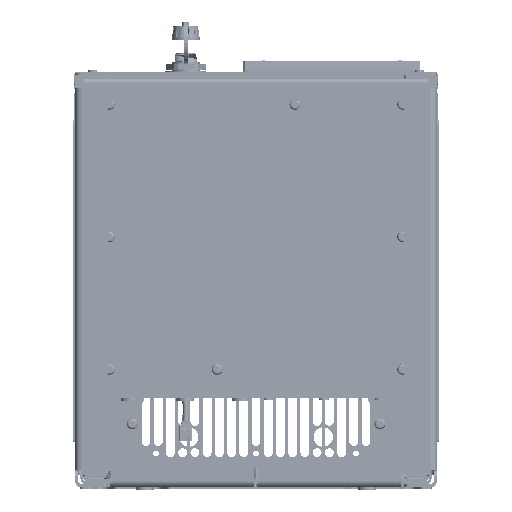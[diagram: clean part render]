
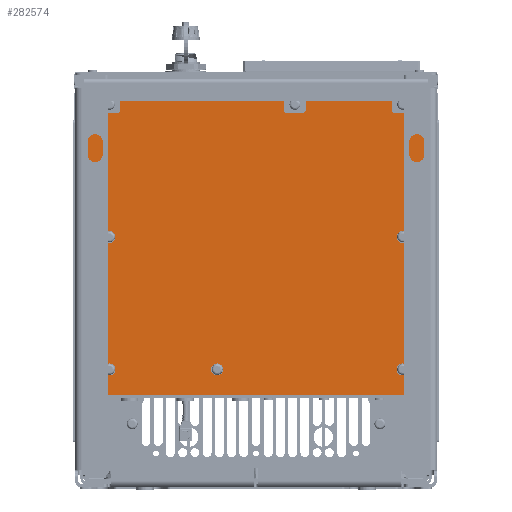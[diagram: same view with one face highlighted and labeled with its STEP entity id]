
A CAD part, front view. The second image highlights one B-rep face of the part: STEP entity #282574.
In plain terms, the highlighted planar face has unit normal (0, -1, 0) as drawn and (0, 0, 1) by its records, which use the part's own axes.
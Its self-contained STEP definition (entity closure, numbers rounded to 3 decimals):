
#281967=CARTESIAN_POINT('',(0.,132.,1.9));
#281968=DIRECTION('',(0.,0.,1.));
#281969=DIRECTION('',(0.,-1.,0.));
#281970=AXIS2_PLACEMENT_3D('',#281967,#281968,#281969);
#281975=CARTESIAN_POINT('',(0.,132.,1.9));
#281976=DIRECTION('',(0.,0.,1.));
#281977=DIRECTION('',(0.,1.,0.));
#281978=AXIS2_PLACEMENT_3D('',#281975,#281976,#281977);
#281983=CARTESIAN_POINT('',(119.3,132.,1.9));
#281984=DIRECTION('',(0.,0.,1.));
#281985=DIRECTION('',(0.,-1.,0.));
#281986=AXIS2_PLACEMENT_3D('',#281983,#281984,#281985);
#281991=CARTESIAN_POINT('',(119.3,132.,1.9));
#281992=DIRECTION('',(0.,0.,1.));
#281993=DIRECTION('',(0.,1.,0.));
#281994=AXIS2_PLACEMENT_3D('',#281991,#281992,#281993);
#281999=CARTESIAN_POINT('',(-119.3,132.,1.9));
#282000=DIRECTION('',(0.,0.,1.));
#282001=DIRECTION('',(0.,-1.,0.));
#282002=AXIS2_PLACEMENT_3D('',#281999,#282000,#282001);
#282007=CARTESIAN_POINT('',(-119.3,132.,1.9));
#282008=DIRECTION('',(0.,0.,1.));
#282009=DIRECTION('',(0.,1.,0.));
#282010=AXIS2_PLACEMENT_3D('',#282007,#282008,#282009);
#282015=CARTESIAN_POINT('',(0.,-132.,1.9));
#282016=DIRECTION('',(0.,0.,1.));
#282017=DIRECTION('',(0.,-1.,0.));
#282018=AXIS2_PLACEMENT_3D('',#282015,#282016,#282017);
#282023=CARTESIAN_POINT('',(0.,-132.,1.9));
#282024=DIRECTION('',(0.,0.,1.));
#282025=DIRECTION('',(0.,1.,0.));
#282026=AXIS2_PLACEMENT_3D('',#282023,#282024,#282025);
#282031=CARTESIAN_POINT('',(119.3,-35.,1.9));
#282032=DIRECTION('',(0.,0.,1.));
#282033=DIRECTION('',(0.,-1.,0.));
#282034=AXIS2_PLACEMENT_3D('',#282031,#282032,#282033);
#282039=CARTESIAN_POINT('',(119.3,-35.,1.9));
#282040=DIRECTION('',(0.,0.,1.));
#282041=DIRECTION('',(0.,1.,0.));
#282042=AXIS2_PLACEMENT_3D('',#282039,#282040,#282041);
#282047=CARTESIAN_POINT('',(119.3,-132.,1.9));
#282048=DIRECTION('',(0.,0.,1.));
#282049=DIRECTION('',(0.,-1.,0.));
#282050=AXIS2_PLACEMENT_3D('',#282047,#282048,#282049);
#282055=CARTESIAN_POINT('',(119.3,-132.,1.9));
#282056=DIRECTION('',(0.,0.,1.));
#282057=DIRECTION('',(0.,1.,0.));
#282058=AXIS2_PLACEMENT_3D('',#282055,#282056,#282057);
#282063=CARTESIAN_POINT('',(-119.3,35.,1.9));
#282064=DIRECTION('',(0.,0.,1.));
#282065=DIRECTION('',(0.,-1.,0.));
#282066=AXIS2_PLACEMENT_3D('',#282063,#282064,#282065);
#282071=CARTESIAN_POINT('',(-119.3,35.,1.9));
#282072=DIRECTION('',(0.,0.,1.));
#282073=DIRECTION('',(0.,1.,0.));
#282074=AXIS2_PLACEMENT_3D('',#282071,#282072,#282073);
#282079=CARTESIAN_POINT('',(-119.3,-132.,1.9));
#282080=DIRECTION('',(0.,0.,1.));
#282081=DIRECTION('',(0.,-1.,0.));
#282082=AXIS2_PLACEMENT_3D('',#282079,#282080,#282081);
#282087=CARTESIAN_POINT('',(-119.3,-132.,1.9));
#282088=DIRECTION('',(0.,0.,1.));
#282089=DIRECTION('',(0.,1.,0.));
#282090=AXIS2_PLACEMENT_3D('',#282087,#282088,#282089);
#282095=CARTESIAN_POINT('',(-137.,-146.,1.9));
#282096=DIRECTION('',(0.,0.,1.));
#282097=DIRECTION('',(-1.,0.,0.));
#282098=AXIS2_PLACEMENT_3D('',#282095,#282096,#282097);
#282103=DIRECTION('',(0.,-1.,0.));
#282104=VECTOR('',#282103,292.);
#282105=CARTESIAN_POINT('',(-142.,146.,1.9));
#282106=LINE('',#282105,#282104);
#282110=CARTESIAN_POINT('',(-137.,146.,1.9));
#282111=DIRECTION('',(0.,0.,1.));
#282112=DIRECTION('',(0.,1.,0.));
#282113=AXIS2_PLACEMENT_3D('',#282110,#282111,#282112);
#282118=DIRECTION('',(-1.,0.,0.));
#282119=VECTOR('',#282118,274.);
#282120=CARTESIAN_POINT('',(137.,151.,1.9));
#282121=LINE('',#282120,#282119);
#282125=CARTESIAN_POINT('',(137.,146.,1.9));
#282126=DIRECTION('',(0.,0.,1.));
#282127=DIRECTION('',(1.,0.,0.));
#282128=AXIS2_PLACEMENT_3D('',#282125,#282126,#282127);
#282133=DIRECTION('',(0.,1.,0.));
#282134=VECTOR('',#282133,292.);
#282135=CARTESIAN_POINT('',(142.,-146.,1.9));
#282136=LINE('',#282135,#282134);
#282140=CARTESIAN_POINT('',(137.,-146.,1.9));
#282141=DIRECTION('',(0.,0.,1.));
#282142=DIRECTION('',(0.,-1.,0.));
#282143=AXIS2_PLACEMENT_3D('',#282140,#282141,#282142);
#282148=DIRECTION('',(1.,0.,0.));
#282149=VECTOR('',#282148,274.);
#282150=CARTESIAN_POINT('',(-137.,-151.,1.9));
#282151=LINE('',#282150,#282149);
#282325=CARTESIAN_POINT('',(-119.3,-135.25,1.9));
#282326=CARTESIAN_POINT('',(-119.3,-128.75,1.9));
#282327=VERTEX_POINT('',#282325);
#282328=VERTEX_POINT('',#282326);
#282329=CARTESIAN_POINT('',(-119.3,31.75,1.9));
#282330=CARTESIAN_POINT('',(-119.3,38.25,1.9));
#282331=VERTEX_POINT('',#282329);
#282332=VERTEX_POINT('',#282330);
#282333=CARTESIAN_POINT('',(119.3,-135.25,1.9));
#282334=CARTESIAN_POINT('',(119.3,-128.75,1.9));
#282335=VERTEX_POINT('',#282333);
#282336=VERTEX_POINT('',#282334);
#282337=CARTESIAN_POINT('',(119.3,-38.25,1.9));
#282338=CARTESIAN_POINT('',(119.3,-31.75,1.9));
#282339=VERTEX_POINT('',#282337);
#282340=VERTEX_POINT('',#282338);
#282357=CARTESIAN_POINT('',(0.,-135.25,1.9));
#282358=CARTESIAN_POINT('',(0.,-128.75,1.9));
#282359=VERTEX_POINT('',#282357);
#282360=VERTEX_POINT('',#282358);
#282361=CARTESIAN_POINT('',(-119.3,128.75,1.9));
#282362=CARTESIAN_POINT('',(-119.3,135.25,1.9));
#282363=VERTEX_POINT('',#282361);
#282364=VERTEX_POINT('',#282362);
#282365=CARTESIAN_POINT('',(119.3,128.75,1.9));
#282366=CARTESIAN_POINT('',(119.3,135.25,1.9));
#282367=VERTEX_POINT('',#282365);
#282368=VERTEX_POINT('',#282366);
#282369=CARTESIAN_POINT('',(0.,128.75,1.9));
#282370=CARTESIAN_POINT('',(0.,135.25,1.9));
#282371=VERTEX_POINT('',#282369);
#282372=VERTEX_POINT('',#282370);
#282377=CARTESIAN_POINT('',(-142.,-146.,1.9));
#282378=VERTEX_POINT('',#282377);
#282379=CARTESIAN_POINT('',(-137.,-151.,1.9));
#282380=VERTEX_POINT('',#282379);
#282385=CARTESIAN_POINT('',(-137.,151.,1.9));
#282386=VERTEX_POINT('',#282385);
#282387=CARTESIAN_POINT('',(-142.,146.,1.9));
#282388=VERTEX_POINT('',#282387);
#282393=CARTESIAN_POINT('',(142.,146.,1.9));
#282394=VERTEX_POINT('',#282393);
#282395=CARTESIAN_POINT('',(137.,151.,1.9));
#282396=VERTEX_POINT('',#282395);
#282401=CARTESIAN_POINT('',(137.,-151.,1.9));
#282402=VERTEX_POINT('',#282401);
#282403=CARTESIAN_POINT('',(142.,-146.,1.9));
#282404=VERTEX_POINT('',#282403);
#282505=CARTESIAN_POINT('',(0.,0.,1.9));
#282506=DIRECTION('',(0.,0.,1.));
#282507=DIRECTION('',(0.,1.,0.));
#282508=AXIS2_PLACEMENT_3D('',#282505,#282506,#282507);
#282509=PLANE('',#282508);
#282511=ORIENTED_EDGE('',*,*,#282510,.F.);
#282513=ORIENTED_EDGE('',*,*,#282512,.F.);
#282515=ORIENTED_EDGE('',*,*,#282514,.F.);
#282517=ORIENTED_EDGE('',*,*,#282516,.F.);
#282519=ORIENTED_EDGE('',*,*,#282518,.F.);
#282521=ORIENTED_EDGE('',*,*,#282520,.F.);
#282523=ORIENTED_EDGE('',*,*,#282522,.F.);
#282525=ORIENTED_EDGE('',*,*,#282524,.F.);
#282526=EDGE_LOOP('',(#282511,#282513,#282515,#282517,#282519,#282521,#282523,
#282525));
#282527=FACE_OUTER_BOUND('',#282526,.F.);
#282529=ORIENTED_EDGE('',*,*,#282528,.T.);
#282531=ORIENTED_EDGE('',*,*,#282530,.T.);
#282532=EDGE_LOOP('',(#282529,#282531));
#282533=FACE_BOUND('',#282532,.F.);
#282535=ORIENTED_EDGE('',*,*,#282534,.T.);
#282537=ORIENTED_EDGE('',*,*,#282536,.T.);
#282538=EDGE_LOOP('',(#282535,#282537));
#282539=FACE_BOUND('',#282538,.F.);
#282541=ORIENTED_EDGE('',*,*,#282540,.T.);
#282543=ORIENTED_EDGE('',*,*,#282542,.T.);
#282544=EDGE_LOOP('',(#282541,#282543));
#282545=FACE_BOUND('',#282544,.F.);
#282547=ORIENTED_EDGE('',*,*,#282546,.T.);
#282549=ORIENTED_EDGE('',*,*,#282548,.T.);
#282550=EDGE_LOOP('',(#282547,#282549));
#282551=FACE_BOUND('',#282550,.F.);
#282553=ORIENTED_EDGE('',*,*,#282552,.T.);
#282555=ORIENTED_EDGE('',*,*,#282554,.T.);
#282556=EDGE_LOOP('',(#282553,#282555));
#282557=FACE_BOUND('',#282556,.F.);
#282559=ORIENTED_EDGE('',*,*,#282558,.T.);
#282561=ORIENTED_EDGE('',*,*,#282560,.T.);
#282562=EDGE_LOOP('',(#282559,#282561));
#282563=FACE_BOUND('',#282562,.F.);
#282564=ORIENTED_EDGE('',*,*,#282485,.T.);
#282565=ORIENTED_EDGE('',*,*,#282499,.T.);
#282566=EDGE_LOOP('',(#282564,#282565));
#282567=FACE_BOUND('',#282566,.F.);
#282569=ORIENTED_EDGE('',*,*,#282568,.T.);
#282571=ORIENTED_EDGE('',*,*,#282570,.T.);
#282572=EDGE_LOOP('',(#282569,#282571));
#282573=FACE_BOUND('',#282572,.F.);
#282574=ADVANCED_FACE('',(#282527,#282533,#282539,#282545,#282551,#282557,
#282563,#282567,#282573),#282509,.T.);
#281971=CIRCLE('',#281970,3.25);
#281979=CIRCLE('',#281978,3.25);
#281987=CIRCLE('',#281986,3.25);
#281995=CIRCLE('',#281994,3.25);
#282003=CIRCLE('',#282002,3.25);
#282011=CIRCLE('',#282010,3.25);
#282019=CIRCLE('',#282018,3.25);
#282027=CIRCLE('',#282026,3.25);
#282035=CIRCLE('',#282034,3.25);
#282043=CIRCLE('',#282042,3.25);
#282051=CIRCLE('',#282050,3.25);
#282059=CIRCLE('',#282058,3.25);
#282067=CIRCLE('',#282066,3.25);
#282075=CIRCLE('',#282074,3.25);
#282083=CIRCLE('',#282082,3.25);
#282091=CIRCLE('',#282090,3.25);
#282099=CIRCLE('',#282098,5.);
#282114=CIRCLE('',#282113,5.);
#282129=CIRCLE('',#282128,5.);
#282144=CIRCLE('',#282143,5.);
#282485=EDGE_CURVE('',#282327,#282328,#282083,.T.);
#282499=EDGE_CURVE('',#282328,#282327,#282091,.T.);
#282510=EDGE_CURVE('',#282378,#282380,#282099,.T.);
#282512=EDGE_CURVE('',#282388,#282378,#282106,.T.);
#282514=EDGE_CURVE('',#282386,#282388,#282114,.T.);
#282516=EDGE_CURVE('',#282396,#282386,#282121,.T.);
#282518=EDGE_CURVE('',#282394,#282396,#282129,.T.);
#282520=EDGE_CURVE('',#282404,#282394,#282136,.T.);
#282522=EDGE_CURVE('',#282402,#282404,#282144,.T.);
#282524=EDGE_CURVE('',#282380,#282402,#282151,.T.);
#282528=EDGE_CURVE('',#282367,#282368,#281987,.T.);
#282530=EDGE_CURVE('',#282368,#282367,#281995,.T.);
#282534=EDGE_CURVE('',#282363,#282364,#282003,.T.);
#282536=EDGE_CURVE('',#282364,#282363,#282011,.T.);
#282540=EDGE_CURVE('',#282359,#282360,#282019,.T.);
#282542=EDGE_CURVE('',#282360,#282359,#282027,.T.);
#282546=EDGE_CURVE('',#282339,#282340,#282035,.T.);
#282548=EDGE_CURVE('',#282340,#282339,#282043,.T.);
#282552=EDGE_CURVE('',#282335,#282336,#282051,.T.);
#282554=EDGE_CURVE('',#282336,#282335,#282059,.T.);
#282558=EDGE_CURVE('',#282331,#282332,#282067,.T.);
#282560=EDGE_CURVE('',#282332,#282331,#282075,.T.);
#282568=EDGE_CURVE('',#282371,#282372,#281971,.T.);
#282570=EDGE_CURVE('',#282372,#282371,#281979,.T.);
